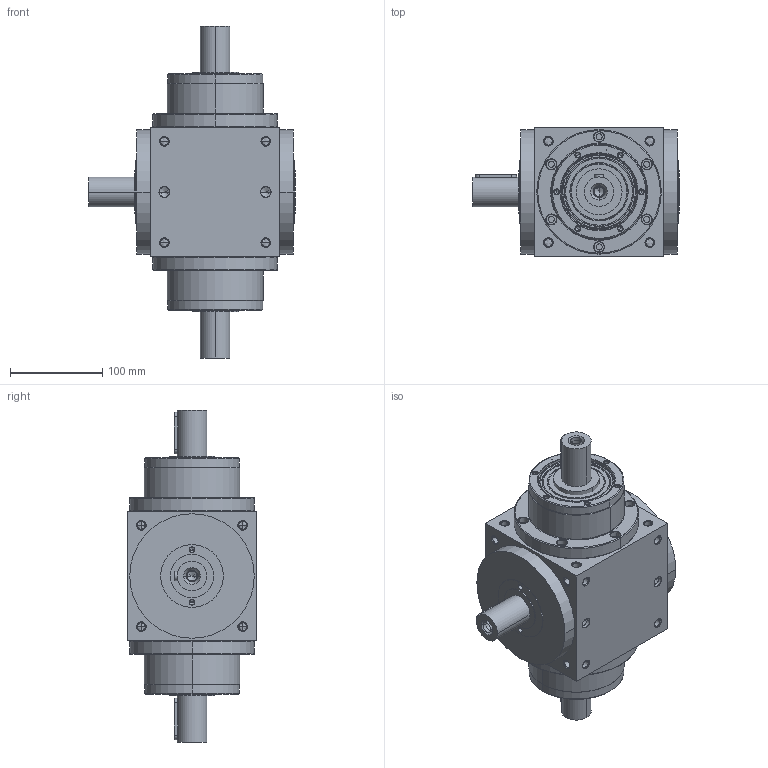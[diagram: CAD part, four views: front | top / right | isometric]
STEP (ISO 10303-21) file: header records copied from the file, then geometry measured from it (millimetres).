
FILE_DESCRIPTION((''),'2;1');
FILE_NAME('AT140LM-1_ASM','2010-02-09T',('d00080'),(''),'PRO/ENGINEER BY PARAMETRIC TECHNOLOGY CORPORATION, 2008170','PRO/ENGINEER BY PARAMETRIC TECHNOLOGY CORPORATION, 2008170','');
FILE_SCHEMA(('CONFIG_CONTROL_DESIGN'));
Length unit declared in the file: millimetre
Products named in the file (4): ATLM-HOUSING-1-6; P1801600001; 22400071006; AT140LM-1_ASM
Assembly tree (5 placements, depth 2):
  AT140LM-1_ASM
    ATLM-HOUSING-1-6
    P1801600001  x2
    22400071006  x2
Bounding box: 224 x 140 x 360 mm (x, y, z)
Volume: 4058813.7 mm3; surface area: 355427.8 mm2
Topology: 7 solids, 46 shells, 847 faces, 2025 edges, 1197 vertices
Faces by surface type: cylinder 370, cone 296, plane 111, torus 70
Entity records: 18408 total; most frequent: CARTESIAN_POINT 3862, DIRECTION 3267, ORIENTED_EDGE 2750, EDGE_CURVE 1441, AXIS2_PLACEMENT_3D 1369, VERTEX_POINT 902, CIRCLE 740, EDGE_LOOP 733
